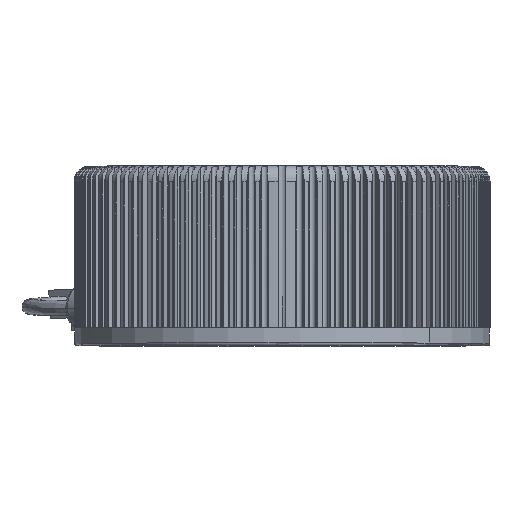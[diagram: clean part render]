
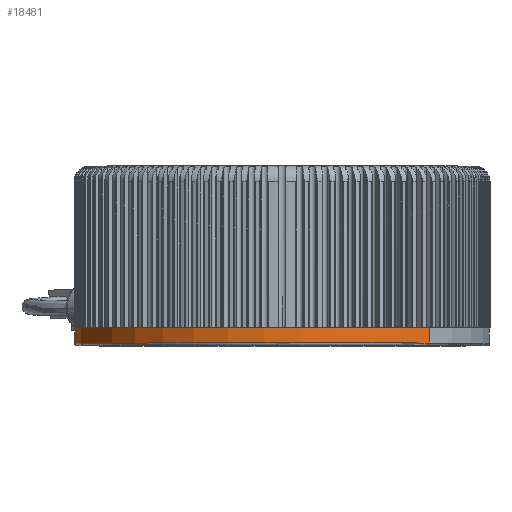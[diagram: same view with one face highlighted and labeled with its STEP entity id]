
A CAD part, top view. The second image highlights one B-rep face of the part: STEP entity #18481.
In plain terms, the highlighted cylindrical face has radius 40.5 mm (diameter 81 mm), a partial arc.
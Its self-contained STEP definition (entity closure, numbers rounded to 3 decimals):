
#270 = DIRECTION ( 'NONE',  ( 0., -1., 0. ) ) ;
#1503 = EDGE_LOOP ( 'NONE', ( #31419, #27942, #7290, #19996 ) ) ;
#1655 = LINE ( 'NONE', #15382, #20533 ) ;
#1767 = VECTOR ( 'NONE', #29706, 1000. ) ;
#2058 = CARTESIAN_POINT ( 'NONE',  ( 0., 5., 40.5 ) ) ;
#2123 = AXIS2_PLACEMENT_3D ( 'NONE', #14024, #6429, #21463 ) ;
#2399 = DIRECTION ( 'NONE',  ( 0., 1., 0. ) ) ;
#2829 = CARTESIAN_POINT ( 'NONE',  ( 0., 3.5, 0. ) ) ;
#6429 = DIRECTION ( 'NONE',  ( 0., -1., 0. ) ) ;
#7151 = DIRECTION ( 'NONE',  ( 0., 1., 0. ) ) ;
#7290 = ORIENTED_EDGE ( 'NONE', *, *, #17285, .T. ) ;
#7964 = VERTEX_POINT ( 'NONE', #21418 ) ;
#8207 = CIRCLE ( 'NONE', #28177, 40.5 ) ;
#8941 = CYLINDRICAL_SURFACE ( 'NONE', #2123, 40.5 ) ;
#9327 = VERTEX_POINT ( 'NONE', #21171 ) ;
#9575 = CARTESIAN_POINT ( 'NONE',  ( 0., 0.5, 0. ) ) ;
#12092 = DIRECTION ( 'NONE',  ( 0., 0., 1. ) ) ;
#13134 = VERTEX_POINT ( 'NONE', #15774 ) ;
#14024 = CARTESIAN_POINT ( 'NONE',  ( 0., 5., 0. ) ) ;
#14797 = EDGE_CURVE ( 'NONE', #9327, #7964, #1655, .T. ) ;
#15382 = CARTESIAN_POINT ( 'NONE',  ( 0., 5., -40.5 ) ) ;
#15774 = CARTESIAN_POINT ( 'NONE',  ( 0., 3.5, 40.5 ) ) ;
#17285 = EDGE_CURVE ( 'NONE', #32391, #7964, #8207, .T. ) ;
#17582 = DIRECTION ( 'NONE',  ( 0., 0., 1. ) ) ;
#18312 = LINE ( 'NONE', #2058, #1767 ) ;
#18481 = ADVANCED_FACE ( 'NONE', ( #20331 ), #8941, .T. ) ;
#19150 = EDGE_CURVE ( 'NONE', #13134, #32391, #18312, .T. ) ;
#19996 = ORIENTED_EDGE ( 'NONE', *, *, #14797, .F. ) ;
#20331 = FACE_OUTER_BOUND ( 'NONE', #1503, .T. ) ;
#20533 = VECTOR ( 'NONE', #270, 1000. ) ;
#21171 = CARTESIAN_POINT ( 'NONE',  ( 0., 3.5, -40.5 ) ) ;
#21418 = CARTESIAN_POINT ( 'NONE',  ( 0., 0.5, -40.5 ) ) ;
#21463 = DIRECTION ( 'NONE',  ( 0., 0., -1. ) ) ;
#21831 = AXIS2_PLACEMENT_3D ( 'NONE', #2829, #2399, #17582 ) ;
#24613 = CARTESIAN_POINT ( 'NONE',  ( 0., 0.5, 40.5 ) ) ;
#26719 = CIRCLE ( 'NONE', #21831, 40.5 ) ;
#27942 = ORIENTED_EDGE ( 'NONE', *, *, #19150, .T. ) ;
#28177 = AXIS2_PLACEMENT_3D ( 'NONE', #9575, #7151, #12092 ) ;
#29706 = DIRECTION ( 'NONE',  ( 0., -1., 0. ) ) ;
#31036 = EDGE_CURVE ( 'NONE', #13134, #9327, #26719, .T. ) ;
#31419 = ORIENTED_EDGE ( 'NONE', *, *, #31036, .F. ) ;
#32391 = VERTEX_POINT ( 'NONE', #24613 ) ;
